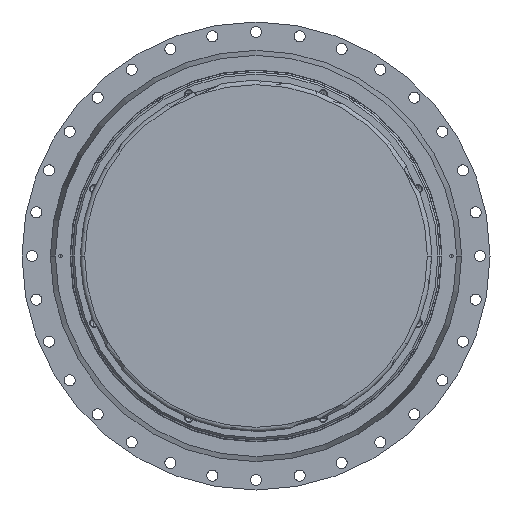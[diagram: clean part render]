
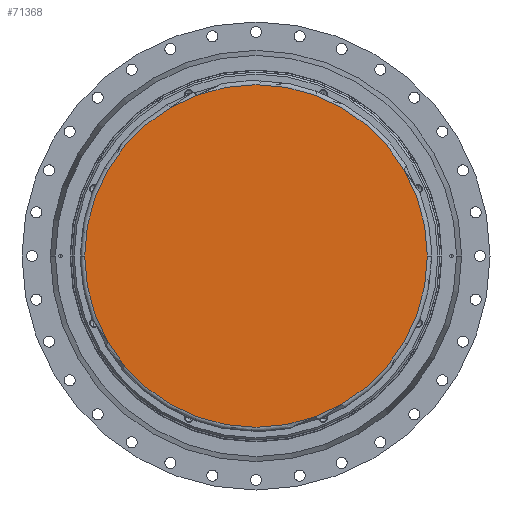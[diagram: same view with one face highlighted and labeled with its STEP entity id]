
A CAD part, front view. The second image highlights one B-rep face of the part: STEP entity #71368.
In plain terms, the highlighted planar face has unit normal (0, -1, 0).
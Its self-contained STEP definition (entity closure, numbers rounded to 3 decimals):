
#22618 = AXIS2_PLACEMENT_3D ( 'NONE', #43590, #134055, #56661 ) ;
#29789 = ORIENTED_EDGE ( 'NONE', *, *, #160461, .T. ) ;
#40010 = DIRECTION ( 'NONE',  ( 0., -1., 0. ) ) ;
#43590 = CARTESIAN_POINT ( 'NONE',  ( 0., -1587., 0. ) ) ;
#46234 = VERTEX_POINT ( 'NONE', #133606 ) ;
#49774 = CARTESIAN_POINT ( 'NONE',  ( 512.5, -1587., 0. ) ) ;
#56661 = DIRECTION ( 'NONE',  ( 0., 0., -1. ) ) ;
#64291 = CARTESIAN_POINT ( 'NONE',  ( 0., -1587., 0. ) ) ;
#66995 = EDGE_CURVE ( 'NONE', #46234, #163352, #156877, .T. ) ;
#70324 = AXIS2_PLACEMENT_3D ( 'NONE', #117478, #40010, #130503 ) ;
#71143 = AXIS2_PLACEMENT_3D ( 'NONE', #64291, #154698, #77314 ) ;
#71368 = ADVANCED_FACE ( 'NONE', ( #158907 ), #129967, .T. ) ;
#77314 = DIRECTION ( 'NONE',  ( 0., 0., -1. ) ) ;
#81910 = EDGE_LOOP ( 'NONE', ( #87197, #29789 ) ) ;
#87197 = ORIENTED_EDGE ( 'NONE', *, *, #66995, .T. ) ;
#117478 = CARTESIAN_POINT ( 'NONE',  ( 0., -1587., 0. ) ) ;
#129967 = PLANE ( 'NONE',  #70324 ) ;
#130503 = DIRECTION ( 'NONE',  ( 0., 0., -1. ) ) ;
#133606 = CARTESIAN_POINT ( 'NONE',  ( -512.5, -1587., 0. ) ) ;
#134055 = DIRECTION ( 'NONE',  ( 0., -1., 0. ) ) ;
#154698 = DIRECTION ( 'NONE',  ( 0., -1., 0. ) ) ;
#156877 = CIRCLE ( 'NONE', #22618, 512.5 ) ;
#158907 = FACE_OUTER_BOUND ( 'NONE', #81910, .T. ) ;
#160461 = EDGE_CURVE ( 'NONE', #163352, #46234, #167763, .T. ) ;
#163352 = VERTEX_POINT ( 'NONE', #49774 ) ;
#167763 = CIRCLE ( 'NONE', #71143, 512.5 ) ;
